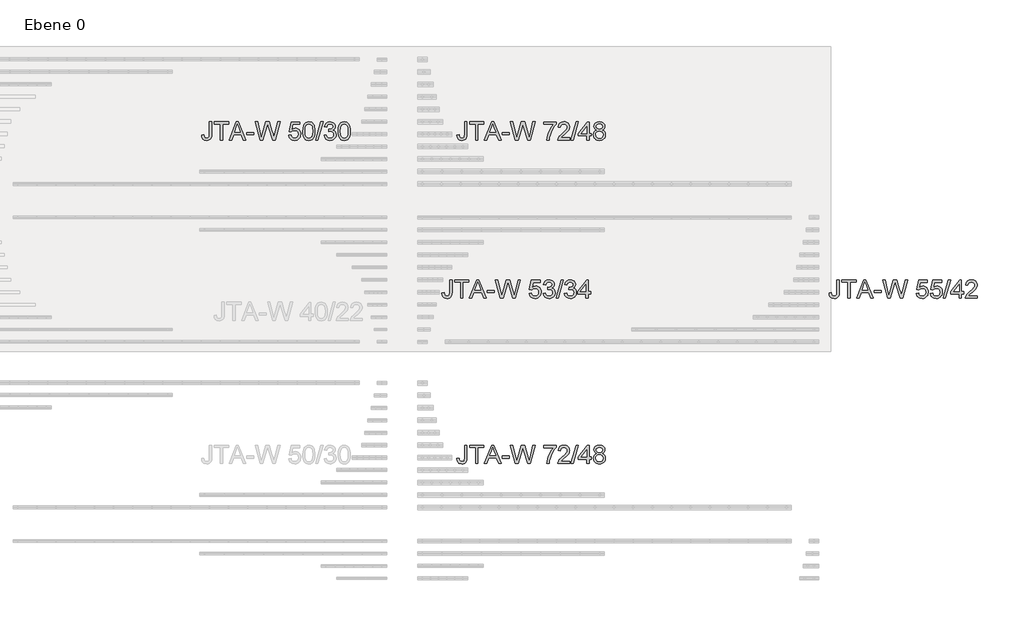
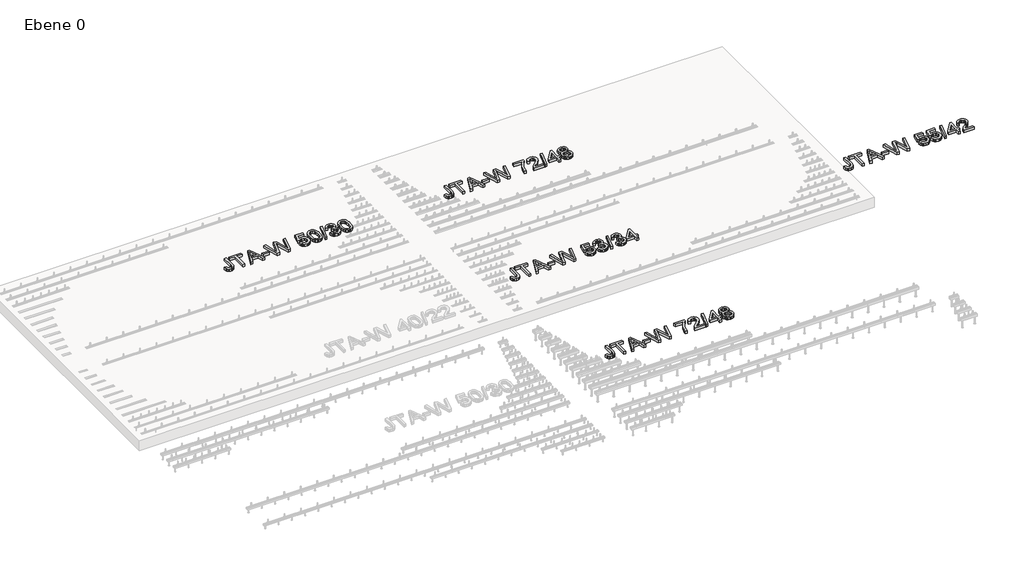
# One storey, part 5 of 5: 5 proxies.
"""IFC4 building model written with IfcOpenShell, lengths in millimetres."""

from ifc_helpers import new_model, si_unit, origin, origin_with_axes, place, context, project, spatial, polyline, outline, extrude, element, save

model = new_model("IFC4")

# Units and contexts
model_context = context("Model", 3, world=origin())
ifc_project = project(units=[si_unit("LENGTHUNIT", "METRE", prefix="MILLI")], contexts=[model_context])

# Site, building, storey
site = spatial("IfcSite", under=ifc_project)
building = spatial("IfcBuilding", under=site)
storey = spatial("IfcBuildingStorey", under=building, Name="Ebene 0", Elevation=0.0)

# Proxies
placement = place(None, origin())
element("IfcBuildingElementProxy", 1, Name="600mm Arial", ObjectType="600mm Arial", at=placement, inside=storey, context=model_context, shape_type="SweptSolid", body=[
    extrude(outline(polyline([(-73.7628927, 745.6259075), (-36.8398158, 750.3855229), (-32.9996716, 723.5405709), (-24.2196235, 706.7557152), (-10.806162, 697.9396094), (6.9342226, 695.0009075), (20.5730448, 696.6685757), (32.210665, 701.6715805), (41.1890303, 709.5501863), (46.850088, 719.8446575), (50.8524919, 756.4432152), (50.8524919, 958.0778305), (87.7755688, 958.0778305), (87.7755688, 757.0922536), (85.5490063, 724.2166527), (78.8693188, 699.7244652), (67.3488861, 681.8308354), (50.600088, 668.7509075), (29.569439, 660.7460998), (5.2034534, 658.0778305), (-28.9251524, 663.585643), (-42.595525, 670.4704087), (-54.0032774, 680.1090805), (-62.945585, 692.465601), (-69.2196235, 707.5039123), (-73.7628927, 745.6259075)])), origin_with_axes(), (0.0, 0.0, 1.0), 50.0),
    extrude(outline(polyline([(226.2371073, 662.6932152), (226.2371073, 921.1547536), (129.3140303, 921.1547536), (129.3140303, 958.0778305), (360.0832611, 958.0778305), (360.0832611, 921.1547536), (263.1601842, 921.1547536), (263.1601842, 662.6932152), (226.2371073, 662.6932152)])), origin_with_axes(), (0.0, 0.0, 1.0), 50.0),
    extrude(outline(polyline([(367.2226842, 662.6932152), (485.131338, 958.0778305), (516.5736457, 958.0778305), (634.4822996, 662.6932152), (595.4678765, 662.6932152), (561.6457611, 755.0009075), (439.9871073, 755.0009075), (406.2371073, 662.6932152), (367.2226842, 662.6932152)]), holes=[polyline([(453.5447996, 791.9239844), (548.1601842, 791.9239844), (521.5496073, 864.5441767), (500.8524919, 921.1547536), (482.4630688, 870.8903305), (453.5447996, 791.9239844)])]), origin_with_axes(), (0.0, 0.0, 1.0), 50.0),
    extrude(outline(polyline([(650.8524919, 750.3855229), (650.8524919, 787.3085998), (766.2371073, 787.3085998), (766.2371073, 750.3855229), (650.8524919, 750.3855229)])), origin_with_axes(), (0.0, 0.0, 1.0), 50.0),
    extrude(outline(polyline([(865.2515303, 662.6932152), (784.6986457, 958.0778305), (822.7755688, 958.0778305), (869.506338, 763.9432152), (883.929415, 704.0153305), (899.3621073, 757.0201382), (957.9197996, 958.0778305), (1012.7996073, 958.0778305), (1055.3476842, 812.3326382), (1073.5748476, 758.2460998), (1087.006338, 704.0153305), (1100.9967226, 762.2124459), (1148.1601842, 958.0778305), (1186.2371073, 958.0778305), (1105.6121073, 662.6932152), (1066.1649919, 662.6932152), (995.3476842, 890.5778305), (985.4678765, 922.3807152), (974.3621073, 884.0874459), (909.818838, 662.6932152), (865.2515303, 662.6932152)])), origin_with_axes(), (0.0, 0.0, 1.0), 50.0),
    extrude(outline(polyline([(1324.6986457, 916.539369), (1324.6986457, 953.4624459), (1518.5447996, 953.4624459), (1518.5447996, 923.6066767), (1490.9155928, 888.6397296), (1463.5568188, 844.1715805), (1439.4252082, 794.25872), (1421.4774919, 742.9576382), (1412.679415, 704.5742248), (1407.7755688, 662.6932152), (1370.8524919, 662.6932152), (1374.8458813, 700.7521094), (1385.5279726, 745.9864844), (1402.6103044, 793.9342007), (1425.804415, 840.133119), (1452.8837419, 881.8969411), (1481.6217226, 916.539369), (1324.6986457, 916.539369)])), origin_with_axes(), (0.0, 0.0, 1.0), 50.0),
    extrude(outline(polyline([(1740.0832611, 699.6162921), (1740.0832611, 662.6932152), (1546.2371073, 662.6932152), (1550.2034534, 688.1499459), (1559.3080207, 708.0447777), (1572.631338, 727.3446575), (1591.9041746, 747.5459796), (1618.8572996, 770.1451382), (1658.7010496, 805.5357632), (1682.6072996, 831.6595613), (1694.5604246, 852.8614844), (1698.5447996, 873.4864844), (1694.7857851, 891.9750661), (1683.5087419, 907.3446575), (1666.1740063, 917.7022296), (1644.241915, 921.1547536), (1621.210064, 917.7833594), (1603.3164342, 907.6691767), (1591.7689582, 891.6054748), (1587.7755688, 870.3855229), (1550.8524919, 875.0009075), (1559.803814, 910.7160517), (1568.1804666, 924.9633474), (1579.1577803, 936.8037921), (1592.4833513, 946.1111839), (1607.9047755, 952.7593209), (1645.0351842, 958.0778305), (1664.8240964, 956.5994652), (1682.4360255, 952.164369), (1697.8709714, 944.7725421), (1711.1289342, 934.4239844), (1721.7772214, 921.8849219), (1729.3831409, 907.9215805), (1733.9466926, 892.5339604), (1735.4678765, 875.7220613), (1733.8272515, 858.0628065), (1728.9053765, 840.7100421), (1720.1704005, 823.0598017), (1707.0904726, 804.508119), (1686.2401121, 782.3596815), (1654.193838, 753.9191767), (1611.7178765, 718.4023498), (1595.0592226, 699.6162921), (1740.0832611, 699.6162921)])), origin_with_axes(), (0.0, 0.0, 1.0), 50.0),
    extrude(outline(polyline([(1758.5447996, 662.6932152), (1841.6217226, 958.0778305), (1874.9390303, 958.0778305), (1791.8621073, 662.6932152), (1758.5447996, 662.6932152)])), origin_with_axes(), (0.0, 0.0, 1.0), 50.0),
    extrude(outline(polyline([(2012.3909534, 662.6932152), (2012.3909534, 731.9239844), (1878.5447996, 731.9239844), (1878.5447996, 768.8470613), (2021.6217226, 953.4624459), (2049.3140303, 953.4624459), (2049.3140303, 768.8470613), (2086.2371073, 768.8470613), (2086.2371073, 731.9239844), (2049.3140303, 731.9239844), (2049.3140303, 662.6932152), (2012.3909534, 662.6932152)]), holes=[polyline([(2012.3909534, 768.8470613), (2012.3909534, 882.9335998), (1923.9774919, 768.8470613), (2012.3909534, 768.8470613)])]), origin_with_axes(), (0.0, 0.0, 1.0), 50.0),
    extrude(outline(polyline([(2172.3428765, 825.3855229), (2152.5742467, 835.1210998), (2138.7010496, 848.3182152), (2130.506939, 864.7064363), (2127.7755688, 884.0153305), (2133.725088, 912.8795132), (2151.5736457, 936.7316767), (2164.4597635, 946.070619), (2179.32004, 952.7412921), (2214.9630688, 958.0778305), (2250.8224438, 952.6150902), (2265.8449799, 945.7866647), (2278.929415, 936.226869), (2297.1024919, 911.9960998), (2301.6457611, 898.0958594), (2303.1601842, 883.0057152), (2300.4648717, 864.3188161), (2292.3789342, 848.2100421), (2278.8122275, 835.0940565), (2259.6746073, 825.3855229), (2282.3999678, 813.6757873), (2298.9414342, 796.4311959), (2309.0285736, 774.4810757), (2312.3909534, 748.6547536), (2310.7232851, 730.2382873), (2305.7202803, 713.3542729), (2297.381939, 698.0027104), (2285.7082611, 684.1835998), (2271.3122275, 672.7623257), (2254.8068188, 664.6042729), (2236.1920351, 659.7094411), (2215.4678765, 658.0778305), (2194.7437178, 659.7162019), (2176.1289342, 664.6313161), (2159.6235255, 672.8231731), (2145.2274919, 684.2917729), (2133.553814, 698.2077885), (2125.2154726, 713.741893), (2120.2124678, 730.8940866), (2118.5447996, 749.664369), (2122.0423957, 776.4912921), (2132.5351842, 798.5585998), (2149.4822996, 815.1090805), (2172.3428765, 825.3855229)]), holes=[polyline([(2155.4678765, 750.9624459), (2161.6337419, 723.1619652), (2170.1704005, 711.2358834), (2183.4486457, 702.3566767), (2199.350088, 696.8398498), (2215.756338, 695.0009075), (2240.8885496, 698.868095), (2259.7467226, 710.4696575), (2271.537588, 728.038768), (2275.4678765, 749.8085998), (2271.4113861, 771.9480229), (2259.241915, 789.9047536), (2239.9510496, 801.8037921), (2214.5303765, 805.7701382), (2189.7497275, 801.8578786), (2171.0808573, 790.1210998), (2159.3711217, 772.5069171), (2155.4678765, 750.9624459)]), polyline([(2164.6986457, 882.9335998), (2167.9708813, 866.8158113), (2177.787588, 853.9432152), (2193.8603044, 845.5057152), (2215.9005688, 842.6932152), (2237.4270111, 845.4876863), (2253.256338, 853.8710998), (2262.991915, 866.3110036), (2266.2371073, 881.2749459), (2262.8837419, 896.8067969), (2252.8236457, 909.6523498), (2236.7779726, 918.2791527), (2215.4678765, 921.1547536), (2194.022564, 918.3422536), (2178.0039342, 909.9047536), (2168.0249678, 897.5369652), (2164.6986457, 882.9335998)])]), origin_with_axes(), (0.0, 0.0, 1.0), 50.0),
])
element("IfcBuildingElementProxy", 2, Name="600mm Arial", ObjectType="600mm Arial", at=placement, inside=storey, context=model_context, shape_type="SweptSolid", body=[
    extrude(outline(polyline([(-4173.7628927, 5945.6259075), (-4136.8398158, 5950.3855229), (-4132.9996716, 5923.5405709), (-4124.2196235, 5906.7557152), (-4110.806162, 5897.9396094), (-4093.0657774, 5895.0009075), (-4079.4269552, 5896.6685757), (-4067.789335, 5901.6715805), (-4058.8109697, 5909.5501863), (-4053.149912, 5919.8446575), (-4049.1475081, 5956.4432152), (-4049.1475081, 6158.0778305), (-4012.2244312, 6158.0778305), (-4012.2244312, 5957.0922536), (-4014.4509937, 5924.2166527), (-4021.1306812, 5899.7244652), (-4032.6511139, 5881.8308354), (-4049.399912, 5868.7509075), (-4070.430561, 5860.7460998), (-4094.7965466, 5858.0778305), (-4128.9251524, 5863.585643), (-4142.595525, 5870.4704087), (-4154.0032774, 5880.1090805), (-4162.945585, 5892.465601), (-4169.2196235, 5907.5039123), (-4173.7628927, 5945.6259075)])), origin_with_axes(), (0.0, 0.0, 1.0), 50.0),
    extrude(outline(polyline([(-3873.7628927, 5862.6932152), (-3873.7628927, 6121.1547536), (-3970.6859697, 6121.1547536), (-3970.6859697, 6158.0778305), (-3739.9167389, 6158.0778305), (-3739.9167389, 6121.1547536), (-3836.8398158, 6121.1547536), (-3836.8398158, 5862.6932152), (-3873.7628927, 5862.6932152)])), origin_with_axes(), (0.0, 0.0, 1.0), 50.0),
    extrude(outline(polyline([(-3732.7773158, 5862.6932152), (-3614.868662, 6158.0778305), (-3583.4263543, 6158.0778305), (-3465.5177004, 5862.6932152), (-3504.5321235, 5862.6932152), (-3538.3542389, 5955.0009075), (-3660.0128927, 5955.0009075), (-3693.7628927, 5862.6932152), (-3732.7773158, 5862.6932152)]), holes=[polyline([(-3646.4552004, 5991.9239844), (-3551.8398158, 5991.9239844), (-3578.4503927, 6064.5441767), (-3599.1475081, 6121.1547536), (-3617.5369312, 6070.8903305), (-3646.4552004, 5991.9239844)])]), origin_with_axes(), (0.0, 0.0, 1.0), 50.0),
    extrude(outline(polyline([(-3449.1475081, 5950.3855229), (-3449.1475081, 5987.3085998), (-3333.7628927, 5987.3085998), (-3333.7628927, 5950.3855229), (-3449.1475081, 5950.3855229)])), origin_with_axes(), (0.0, 0.0, 1.0), 50.0),
    extrude(outline(polyline([(-3234.7484697, 5862.6932152), (-3315.3013543, 6158.0778305), (-3277.2244312, 6158.0778305), (-3230.493662, 5963.9432152), (-3216.070585, 5904.0153305), (-3200.6378927, 5957.0201382), (-3142.0802004, 6158.0778305), (-3087.2003927, 6158.0778305), (-3044.6523158, 6012.3326382), (-3026.4251524, 5958.2460998), (-3012.993662, 5904.0153305), (-2999.0032774, 5962.2124459), (-2951.8398158, 6158.0778305), (-2913.7628927, 6158.0778305), (-2994.3878927, 5862.6932152), (-3033.8350081, 5862.6932152), (-3104.6523158, 6090.5778305), (-3114.5321235, 6122.3807152), (-3125.6378927, 6084.0874459), (-3190.181162, 5862.6932152), (-3234.7484697, 5862.6932152)])), origin_with_axes(), (0.0, 0.0, 1.0), 50.0),
    extrude(outline(polyline([(-2775.3013543, 5941.1547536), (-2738.3782774, 5945.7701382), (-2731.5994312, 5923.6036719), (-2719.7725081, 5907.7292729), (-2702.9515947, 5898.1829988), (-2681.1907774, 5895.0009075), (-2654.7244312, 5899.4269892), (-2634.8927004, 5912.7052344), (-2622.5068831, 5933.3031911), (-2618.3782774, 5959.6884075), (-2622.2454649, 5984.5321575), (-2633.8470274, 6003.5345613), (-2653.2731091, 6015.5958594), (-2680.6138543, 6019.6162921), (-2698.5255129, 6018.0117248), (-2713.0297197, 6013.1980229), (-2733.7628927, 5996.539369), (-2770.6859697, 6001.1547536), (-2738.3782774, 6153.4624459), (-2595.3013543, 6153.4624459), (-2595.3013543, 6116.539369), (-2708.5225081, 6116.539369), (-2724.3157774, 6035.1932152), (-2697.9395754, 6051.2028305), (-2670.3013543, 6056.539369), (-2652.3198338, 6054.8852224), (-2635.8031572, 6049.9227825), (-2620.7513242, 6041.6520493), (-2607.164335, 6030.0730229), (-2595.9165887, 6015.8933354), (-2587.8824841, 5999.820619), (-2583.0620213, 5981.8548738), (-2581.4552004, 5961.9960998), (-2587.24246, 5925.0730229), (-2594.4765346, 5908.6126863), (-2604.6042389, 5893.4864844), (-2619.946787, 5877.9951983), (-2637.8494312, 5866.929994), (-2658.3121716, 5860.2908714), (-2681.3350081, 5858.0778305), (-2717.6000322, 5863.7659315), (-2732.9673699, 5870.8760577), (-2746.4912581, 5880.8302344), (-2757.7435117, 5893.1326683), (-2766.2959456, 5907.2875661), (-2775.3013543, 5941.1547536)])), origin_with_axes(), (0.0, 0.0, 1.0), 50.0),
    extrude(outline(polyline([(-2549.1475081, 6008.0057152), (-2546.4341668, 6055.2863642), (-2538.2941427, 6092.9936959), (-2524.8085658, 6121.7046334), (-2506.0585658, 6141.9960998), (-2481.9089264, 6154.0573979), (-2452.2244312, 6158.0778305), (-2429.4720274, 6155.6980229), (-2409.0994312, 6148.5585998), (-2392.0621716, 6136.9390084), (-2379.3157774, 6121.1186959), (-2369.6883735, 6101.2328786), (-2362.008085, 6077.4167729), (-2356.978037, 6047.1733834), (-2355.3013543, 6008.0057152), (-2357.9876524, 5960.9954988), (-2366.0465466, 5923.3783113), (-2379.4509937, 5894.6403305), (-2398.1739504, 5874.2677344), (-2422.3776764, 5862.1253065), (-2452.2244312, 5858.0778305), (-2472.5609697, 5859.835643), (-2490.5898158, 5865.1090805), (-2506.3109697, 5873.898143), (-2519.7244312, 5886.2028305), (-2532.5970274, 5908.4459195), (-2541.7917389, 5936.1607632), (-2547.3085658, 5969.3473618), (-2549.1475081, 6008.0057152)]), holes=[polyline([(-2512.2244312, 6008.0778305), (-2507.8975081, 5949.9979027), (-2502.4888543, 5930.1323678), (-2494.9167389, 5916.383119), (-2475.5898158, 5900.3464604), (-2452.2244312, 5895.0009075), (-2428.8590466, 5900.3644892), (-2409.5321235, 5916.4552344), (-2401.9600081, 5930.2270192), (-2396.5513543, 5950.0880469), (-2392.2244312, 6008.0778305), (-2396.4071235, 6064.8506671), (-2401.6354889, 6084.6508474), (-2408.9552004, 6098.726869), (-2428.2460658, 6115.5477825), (-2452.6571235, 6121.1547536), (-2475.7701043, 6116.2148498), (-2494.3398158, 6101.3951382), (-2502.164335, 6086.070619), (-2507.7532774, 6065.4095613), (-2512.2244312, 6008.0778305)])]), origin_with_axes(), (0.0, 0.0, 1.0), 50.0),
    extrude(outline(polyline([(-2341.4552004, 5862.6932152), (-2258.3782774, 6158.0778305), (-2225.0609697, 6158.0778305), (-2308.1378927, 5862.6932152), (-2341.4552004, 5862.6932152)])), origin_with_axes(), (0.0, 0.0, 1.0), 50.0),
    extrude(outline(polyline([(-2207.6090466, 5941.1547536), (-2170.6859697, 5945.7701382), (-2162.4197437, 5922.5670132), (-2150.3133735, 5906.8999459), (-2133.7719072, 5897.9756671), (-2112.2003927, 5895.0009075), (-2086.8878927, 5899.0934555), (-2067.3446235, 5911.3710998), (-2054.8506331, 5929.6884075), (-2050.6859697, 5951.8999459), (-2054.8145754, 5972.9846815), (-2067.2003927, 5990.0850421), (-2085.9503927, 6001.4161719), (-2109.1715466, 6005.1932152), (-2135.0609697, 6001.1547536), (-2130.9503927, 6038.0778305), (-2125.0369312, 6037.6451382), (-2102.915537, 6040.2953786), (-2083.1378927, 6048.2460998), (-2069.1835658, 6061.695619), (-2064.5321235, 6080.8422536), (-2067.9035177, 6096.788768), (-2078.0177004, 6109.7244652), (-2093.4503927, 6118.2971815), (-2112.7773158, 6121.1547536), (-2132.1402966, 6118.2701382), (-2147.9696235, 6109.6162921), (-2159.5261139, 6095.1932152), (-2166.070585, 6075.0009075), (-2202.993662, 6079.6162921), (-2192.1222677, 6112.7713402), (-2172.7773158, 6137.5249459), (-2146.3109697, 6152.9396094), (-2114.0753927, 6158.0778305), (-2090.8632533, 6155.5447777), (-2069.5441427, 6147.945619), (-2051.5693831, 6135.9564363), (-2038.3902966, 6120.2533113), (-2030.3043591, 6102.1613642), (-2027.6090466, 6083.0057152), (-2030.1691427, 6065.1571575), (-2037.8494312, 6048.9672536), (-2050.5417389, 6035.1751863), (-2068.1378927, 6024.5201382), (-2045.024912, 6015.1811959), (-2027.8975081, 5999.2797536), (-2017.2965466, 5977.6811959), (-2013.7628927, 5951.2509075), (-2015.5297197, 5932.5189363), (-2020.8302004, 5915.2653305), (-2029.664335, 5899.4900902), (-2042.0321235, 5885.1932152), (-2057.0997317, 5873.3302344), (-2074.0333254, 5864.8566767), (-2092.8329048, 5859.7725421), (-2113.4984697, 5858.0778305), (-2149.195585, 5863.8650902), (-2164.556162, 5871.0991647), (-2178.258085, 5881.226869), (-2189.7469673, 5893.6532512), (-2198.4684216, 5907.7833594), (-2207.6090466, 5941.1547536)])), origin_with_axes(), (0.0, 0.0, 1.0), 50.0),
    extrude(outline(polyline([(-1981.4552004, 6008.0057152), (-1978.7418591, 6055.2863642), (-1970.601835, 6092.9936959), (-1957.1162581, 6121.7046334), (-1938.3662581, 6141.9960998), (-1914.2166187, 6154.0573979), (-1884.5321235, 6158.0778305), (-1861.7797197, 6155.6980229), (-1841.4071235, 6148.5585998), (-1824.3698639, 6136.9390084), (-1811.6234697, 6121.1186959), (-1801.9960658, 6101.2328786), (-1794.3157774, 6077.4167729), (-1789.2857293, 6047.1733834), (-1787.6090466, 6008.0057152), (-1790.2953447, 5960.9954988), (-1798.3542389, 5923.3783113), (-1811.758686, 5894.6403305), (-1830.4816427, 5874.2677344), (-1854.6853687, 5862.1253065), (-1884.5321235, 5858.0778305), (-1904.868662, 5859.835643), (-1922.8975081, 5865.1090805), (-1938.618662, 5873.898143), (-1952.0321235, 5886.2028305), (-1964.9047197, 5908.4459195), (-1974.0994312, 5936.1607632), (-1979.6162581, 5969.3473618), (-1981.4552004, 6008.0057152)]), holes=[polyline([(-1944.5321235, 6008.0778305), (-1940.2052004, 5949.9979027), (-1934.7965466, 5930.1323678), (-1927.2244312, 5916.383119), (-1907.8975081, 5900.3464604), (-1884.5321235, 5895.0009075), (-1861.1667389, 5900.3644892), (-1841.8398158, 5916.4552344), (-1834.2677004, 5930.2270192), (-1828.8590466, 5950.0880469), (-1824.5321235, 6008.0778305), (-1828.7148158, 6064.8506671), (-1833.9431812, 6084.6508474), (-1841.2628927, 6098.726869), (-1860.5537581, 6115.5477825), (-1884.9648158, 6121.1547536), (-1908.0777966, 6116.2148498), (-1926.6475081, 6101.3951382), (-1934.4720274, 6086.070619), (-1940.0609697, 6065.4095613), (-1944.5321235, 6008.0778305)])]), origin_with_axes(), (0.0, 0.0, 1.0), 50.0),
])
element("IfcBuildingElementProxy", 3, Name="600mm Arial", ObjectType="600mm Arial", at=placement, inside=storey, context=model_context, shape_type="SweptSolid", body=[
    extrude(outline(polyline([(-313.7628927, 3405.6259075), (-276.8398158, 3410.3855229), (-272.9996716, 3383.5405709), (-264.2196235, 3366.7557152), (-250.806162, 3357.9396094), (-233.0657774, 3355.0009075), (-219.4269552, 3356.6685757), (-207.789335, 3361.6715805), (-198.8109697, 3369.5501863), (-193.149912, 3379.8446575), (-189.1475081, 3416.4432152), (-189.1475081, 3618.0778305), (-152.2244312, 3618.0778305), (-152.2244312, 3417.0922536), (-154.4509937, 3384.2166527), (-161.1306812, 3359.7244652), (-172.6511139, 3341.8308354), (-189.399912, 3328.7509075), (-210.430561, 3320.7460998), (-234.7965466, 3318.0778305), (-268.9251524, 3323.585643), (-282.595525, 3330.4704087), (-294.0032774, 3340.1090805), (-302.945585, 3352.465601), (-309.2196235, 3367.5039123), (-313.7628927, 3405.6259075)])), origin_with_axes(), (0.0, 0.0, 1.0), 50.0),
    extrude(outline(polyline([(-13.7628927, 3322.6932152), (-13.7628927, 3581.1547536), (-110.6859697, 3581.1547536), (-110.6859697, 3618.0778305), (120.0832611, 3618.0778305), (120.0832611, 3581.1547536), (23.1601842, 3581.1547536), (23.1601842, 3322.6932152), (-13.7628927, 3322.6932152)])), origin_with_axes(), (0.0, 0.0, 1.0), 50.0),
    extrude(outline(polyline([(127.2226842, 3322.6932152), (245.131338, 3618.0778305), (276.5736457, 3618.0778305), (394.4822996, 3322.6932152), (355.4678765, 3322.6932152), (321.6457611, 3415.0009075), (199.9871073, 3415.0009075), (166.2371073, 3322.6932152), (127.2226842, 3322.6932152)]), holes=[polyline([(213.5447996, 3451.9239844), (308.1601842, 3451.9239844), (281.5496073, 3524.5441767), (260.8524919, 3581.1547536), (242.4630688, 3530.8903305), (213.5447996, 3451.9239844)])]), origin_with_axes(), (0.0, 0.0, 1.0), 50.0),
    extrude(outline(polyline([(410.8524919, 3410.3855229), (410.8524919, 3447.3085998), (526.2371073, 3447.3085998), (526.2371073, 3410.3855229), (410.8524919, 3410.3855229)])), origin_with_axes(), (0.0, 0.0, 1.0), 50.0),
    extrude(outline(polyline([(625.2515303, 3322.6932152), (544.6986457, 3618.0778305), (582.7755688, 3618.0778305), (629.506338, 3423.9432152), (643.929415, 3364.0153305), (659.3621073, 3417.0201382), (717.9197996, 3618.0778305), (772.7996073, 3618.0778305), (815.3476842, 3472.3326382), (833.5748476, 3418.2460998), (847.006338, 3364.0153305), (860.9967226, 3422.2124459), (908.1601842, 3618.0778305), (946.2371073, 3618.0778305), (865.6121073, 3322.6932152), (826.1649919, 3322.6932152), (755.3476842, 3550.5778305), (745.4678765, 3582.3807152), (734.3621073, 3544.0874459), (669.818838, 3322.6932152), (625.2515303, 3322.6932152)])), origin_with_axes(), (0.0, 0.0, 1.0), 50.0),
    extrude(outline(polyline([(1084.6986457, 3401.1547536), (1121.6217226, 3405.7701382), (1128.4005688, 3383.6036719), (1140.2274919, 3367.7292729), (1157.0484053, 3358.1829988), (1178.8092226, 3355.0009075), (1205.2755688, 3359.4269892), (1225.1072996, 3372.7052344), (1237.4931169, 3393.3031911), (1241.6217226, 3419.6884075), (1237.7545351, 3444.5321575), (1226.1529726, 3463.5345613), (1206.7268909, 3475.5958594), (1179.3861457, 3479.6162921), (1161.4744871, 3478.0117248), (1146.9702803, 3473.1980229), (1126.2371073, 3456.539369), (1089.3140303, 3461.1547536), (1121.6217226, 3613.4624459), (1264.6986457, 3613.4624459), (1264.6986457, 3576.539369), (1151.4774919, 3576.539369), (1135.6842226, 3495.1932152), (1162.0604246, 3511.2028305), (1189.6986457, 3516.539369), (1207.6801662, 3514.8852224), (1224.1968428, 3509.9227825), (1239.2486758, 3501.6520493), (1252.835665, 3490.0730229), (1264.0834113, 3475.8933354), (1272.1175159, 3459.820619), (1276.9379787, 3441.8548738), (1278.5447996, 3421.9960998), (1272.75754, 3385.0730229), (1265.5234654, 3368.6126863), (1255.3957611, 3353.4864844), (1240.053213, 3337.9951983), (1222.1505688, 3326.929994), (1201.6878284, 3320.2908714), (1178.6649919, 3318.0778305), (1142.3999678, 3323.7659315), (1127.0326301, 3330.8760577), (1113.5087419, 3340.8302344), (1102.2564883, 3353.1326683), (1093.7040544, 3367.2875661), (1084.6986457, 3401.1547536)])), origin_with_axes(), (0.0, 0.0, 1.0), 50.0),
    extrude(outline(polyline([(1310.8524919, 3401.1547536), (1347.7755688, 3405.7701382), (1356.0417948, 3382.5670132), (1368.148165, 3366.8999459), (1384.6896313, 3357.9756671), (1406.2611457, 3355.0009075), (1431.5736457, 3359.0934555), (1451.116915, 3371.3710998), (1463.6109053, 3389.6884075), (1467.7755688, 3411.8999459), (1463.646963, 3432.9846815), (1451.2611457, 3450.0850421), (1432.5111457, 3461.4161719), (1409.2899919, 3465.1932152), (1383.4005688, 3461.1547536), (1387.5111457, 3498.0778305), (1393.4246073, 3497.6451382), (1415.5460015, 3500.2953786), (1435.3236457, 3508.2460998), (1449.2779726, 3521.695619), (1453.929415, 3540.8422536), (1450.5580207, 3556.788768), (1440.443838, 3569.7244652), (1425.0111457, 3578.2971815), (1405.6842226, 3581.1547536), (1386.3212419, 3578.2701382), (1370.491915, 3569.6162921), (1358.9354246, 3555.1932152), (1352.3909534, 3535.0009075), (1315.4678765, 3539.6162921), (1326.3392707, 3572.7713402), (1345.6842226, 3597.5249459), (1372.1505688, 3612.9396094), (1404.3861457, 3618.0778305), (1427.5982851, 3615.5447777), (1448.9173957, 3607.945619), (1466.8921553, 3595.9564363), (1480.0712419, 3580.2533113), (1488.1571794, 3562.1613642), (1490.8524919, 3543.0057152), (1488.2923957, 3525.1571575), (1480.6121073, 3508.9672536), (1467.9197996, 3495.1751863), (1450.3236457, 3484.5201382), (1473.4366265, 3475.1811959), (1490.5640303, 3459.2797536), (1501.1649919, 3437.6811959), (1504.6986457, 3411.2509075), (1502.9318188, 3392.5189363), (1497.631338, 3375.2653305), (1488.7972034, 3359.4900902), (1476.429415, 3345.1932152), (1461.3618068, 3333.3302344), (1444.428213, 3324.8566767), (1425.6286337, 3319.7725421), (1404.9630688, 3318.0778305), (1369.2659534, 3323.8650902), (1353.9053765, 3331.0991647), (1340.2034534, 3341.226869), (1328.7145712, 3353.6532512), (1319.9931169, 3367.7833594), (1310.8524919, 3401.1547536)])), origin_with_axes(), (0.0, 0.0, 1.0), 50.0),
    extrude(outline(polyline([(1518.5447996, 3322.6932152), (1601.6217226, 3618.0778305), (1634.9390303, 3618.0778305), (1551.8621073, 3322.6932152), (1518.5447996, 3322.6932152)])), origin_with_axes(), (0.0, 0.0, 1.0), 50.0),
    extrude(outline(polyline([(1652.3909534, 3401.1547536), (1689.3140303, 3405.7701382), (1697.5802563, 3382.5670132), (1709.6866265, 3366.8999459), (1726.2280928, 3357.9756671), (1747.7996073, 3355.0009075), (1773.1121073, 3359.0934555), (1792.6553765, 3371.3710998), (1805.1493669, 3389.6884075), (1809.3140303, 3411.8999459), (1805.1854246, 3432.9846815), (1792.7996073, 3450.0850421), (1774.0496073, 3461.4161719), (1750.8284534, 3465.1932152), (1724.9390303, 3461.1547536), (1729.0496073, 3498.0778305), (1734.9630688, 3497.6451382), (1757.084463, 3500.2953786), (1776.8621073, 3508.2460998), (1790.8164342, 3521.695619), (1795.4678765, 3540.8422536), (1792.0964823, 3556.788768), (1781.9822996, 3569.7244652), (1766.5496073, 3578.2971815), (1747.2226842, 3581.1547536), (1727.8597034, 3578.2701382), (1712.0303765, 3569.6162921), (1700.4738861, 3555.1932152), (1693.929415, 3535.0009075), (1657.006338, 3539.6162921), (1667.8777323, 3572.7713402), (1687.2226842, 3597.5249459), (1713.6890303, 3612.9396094), (1745.9246073, 3618.0778305), (1769.1367467, 3615.5447777), (1790.4558573, 3607.945619), (1808.4306169, 3595.9564363), (1821.6097034, 3580.2533113), (1829.6956409, 3562.1613642), (1832.3909534, 3543.0057152), (1829.8308573, 3525.1571575), (1822.1505688, 3508.9672536), (1809.4582611, 3495.1751863), (1791.8621073, 3484.5201382), (1814.975088, 3475.1811959), (1832.1024919, 3459.2797536), (1842.7034534, 3437.6811959), (1846.2371073, 3411.2509075), (1844.4702803, 3392.5189363), (1839.1697996, 3375.2653305), (1830.335665, 3359.4900902), (1817.9678765, 3345.1932152), (1802.9002683, 3333.3302344), (1785.9666746, 3324.8566767), (1767.1670952, 3319.7725421), (1746.5015303, 3318.0778305), (1710.804415, 3323.8650902), (1695.443838, 3331.0991647), (1681.741915, 3341.226869), (1670.2530327, 3353.6532512), (1661.5315784, 3367.7833594), (1652.3909534, 3401.1547536)])), origin_with_axes(), (0.0, 0.0, 1.0), 50.0),
    extrude(outline(polyline([(1998.5447996, 3322.6932152), (1998.5447996, 3391.9239844), (1864.6986457, 3391.9239844), (1864.6986457, 3428.8470613), (2007.7755688, 3613.4624459), (2035.4678765, 3613.4624459), (2035.4678765, 3428.8470613), (2072.3909534, 3428.8470613), (2072.3909534, 3391.9239844), (2035.4678765, 3391.9239844), (2035.4678765, 3322.6932152), (1998.5447996, 3322.6932152)]), holes=[polyline([(1998.5447996, 3428.8470613), (1998.5447996, 3542.9335998), (1910.131338, 3428.8470613), (1998.5447996, 3428.8470613)])]), origin_with_axes(), (0.0, 0.0, 1.0), 50.0),
])
element("IfcBuildingElementProxy", 4, Name="600mm Arial", ObjectType="600mm Arial", at=placement, inside=storey, context=model_context, shape_type="SweptSolid", body=[
    extrude(outline(polyline([(-73.7628927, 5945.6259075), (-36.8398158, 5950.3855229), (-32.9996716, 5923.5405709), (-24.2196235, 5906.7557152), (-10.806162, 5897.9396094), (6.9342226, 5895.0009075), (20.5730448, 5896.6685757), (32.210665, 5901.6715805), (41.1890303, 5909.5501863), (46.850088, 5919.8446575), (50.8524919, 5956.4432152), (50.8524919, 6158.0778305), (87.7755688, 6158.0778305), (87.7755688, 5957.0922536), (85.5490063, 5924.2166527), (78.8693188, 5899.7244652), (67.3488861, 5881.8308354), (50.600088, 5868.7509075), (29.569439, 5860.7460998), (5.2034534, 5858.0778305), (-28.9251524, 5863.585643), (-42.595525, 5870.4704087), (-54.0032774, 5880.1090805), (-62.945585, 5892.465601), (-69.2196235, 5907.5039123), (-73.7628927, 5945.6259075)])), origin_with_axes(), (0.0, 0.0, 1.0), 50.0),
    extrude(outline(polyline([(226.2371073, 5862.6932152), (226.2371073, 6121.1547536), (129.3140303, 6121.1547536), (129.3140303, 6158.0778305), (360.0832611, 6158.0778305), (360.0832611, 6121.1547536), (263.1601842, 6121.1547536), (263.1601842, 5862.6932152), (226.2371073, 5862.6932152)])), origin_with_axes(), (0.0, 0.0, 1.0), 50.0),
    extrude(outline(polyline([(367.2226842, 5862.6932152), (485.131338, 6158.0778305), (516.5736457, 6158.0778305), (634.4822996, 5862.6932152), (595.4678765, 5862.6932152), (561.6457611, 5955.0009075), (439.9871073, 5955.0009075), (406.2371073, 5862.6932152), (367.2226842, 5862.6932152)]), holes=[polyline([(453.5447996, 5991.9239844), (548.1601842, 5991.9239844), (521.5496073, 6064.5441767), (500.8524919, 6121.1547536), (482.4630688, 6070.8903305), (453.5447996, 5991.9239844)])]), origin_with_axes(), (0.0, 0.0, 1.0), 50.0),
    extrude(outline(polyline([(650.8524919, 5950.3855229), (650.8524919, 5987.3085998), (766.2371073, 5987.3085998), (766.2371073, 5950.3855229), (650.8524919, 5950.3855229)])), origin_with_axes(), (0.0, 0.0, 1.0), 50.0),
    extrude(outline(polyline([(865.2515303, 5862.6932152), (784.6986457, 6158.0778305), (822.7755688, 6158.0778305), (869.506338, 5963.9432152), (883.929415, 5904.0153305), (899.3621073, 5957.0201382), (957.9197996, 6158.0778305), (1012.7996073, 6158.0778305), (1055.3476842, 6012.3326382), (1073.5748476, 5958.2460998), (1087.006338, 5904.0153305), (1100.9967226, 5962.2124459), (1148.1601842, 6158.0778305), (1186.2371073, 6158.0778305), (1105.6121073, 5862.6932152), (1066.1649919, 5862.6932152), (995.3476842, 6090.5778305), (985.4678765, 6122.3807152), (974.3621073, 6084.0874459), (909.818838, 5862.6932152), (865.2515303, 5862.6932152)])), origin_with_axes(), (0.0, 0.0, 1.0), 50.0),
    extrude(outline(polyline([(1324.6986457, 6116.539369), (1324.6986457, 6153.4624459), (1518.5447996, 6153.4624459), (1518.5447996, 6123.6066767), (1490.9155928, 6088.6397296), (1463.5568188, 6044.1715805), (1439.4252082, 5994.25872), (1421.4774919, 5942.9576382), (1412.679415, 5904.5742248), (1407.7755688, 5862.6932152), (1370.8524919, 5862.6932152), (1374.8458813, 5900.7521094), (1385.5279726, 5945.9864844), (1402.6103044, 5993.9342007), (1425.804415, 6040.133119), (1452.8837419, 6081.8969411), (1481.6217226, 6116.539369), (1324.6986457, 6116.539369)])), origin_with_axes(), (0.0, 0.0, 1.0), 50.0),
    extrude(outline(polyline([(1740.0832611, 5899.6162921), (1740.0832611, 5862.6932152), (1546.2371073, 5862.6932152), (1550.2034534, 5888.1499459), (1559.3080207, 5908.0447777), (1572.631338, 5927.3446575), (1591.9041746, 5947.5459796), (1618.8572996, 5970.1451382), (1658.7010496, 6005.5357632), (1682.6072996, 6031.6595613), (1694.5604246, 6052.8614844), (1698.5447996, 6073.4864844), (1694.7857851, 6091.9750661), (1683.5087419, 6107.3446575), (1666.1740063, 6117.7022296), (1644.241915, 6121.1547536), (1621.210064, 6117.7833594), (1603.3164342, 6107.6691767), (1591.7689582, 6091.6054748), (1587.7755688, 6070.3855229), (1550.8524919, 6075.0009075), (1559.803814, 6110.7160517), (1568.1804666, 6124.9633474), (1579.1577803, 6136.8037921), (1592.4833513, 6146.1111839), (1607.9047755, 6152.7593209), (1645.0351842, 6158.0778305), (1664.8240964, 6156.5994652), (1682.4360255, 6152.164369), (1697.8709714, 6144.7725421), (1711.1289342, 6134.4239844), (1721.7772214, 6121.8849219), (1729.3831409, 6107.9215805), (1733.9466926, 6092.5339604), (1735.4678765, 6075.7220613), (1733.8272515, 6058.0628065), (1728.9053765, 6040.7100421), (1720.1704005, 6023.0598017), (1707.0904726, 6004.508119), (1686.2401121, 5982.3596815), (1654.193838, 5953.9191767), (1611.7178765, 5918.4023498), (1595.0592226, 5899.6162921), (1740.0832611, 5899.6162921)])), origin_with_axes(), (0.0, 0.0, 1.0), 50.0),
    extrude(outline(polyline([(1758.5447996, 5862.6932152), (1841.6217226, 6158.0778305), (1874.9390303, 6158.0778305), (1791.8621073, 5862.6932152), (1758.5447996, 5862.6932152)])), origin_with_axes(), (0.0, 0.0, 1.0), 50.0),
    extrude(outline(polyline([(2012.3909534, 5862.6932152), (2012.3909534, 5931.9239844), (1878.5447996, 5931.9239844), (1878.5447996, 5968.8470613), (2021.6217226, 6153.4624459), (2049.3140303, 6153.4624459), (2049.3140303, 5968.8470613), (2086.2371073, 5968.8470613), (2086.2371073, 5931.9239844), (2049.3140303, 5931.9239844), (2049.3140303, 5862.6932152), (2012.3909534, 5862.6932152)]), holes=[polyline([(2012.3909534, 5968.8470613), (2012.3909534, 6082.9335998), (1923.9774919, 5968.8470613), (2012.3909534, 5968.8470613)])]), origin_with_axes(), (0.0, 0.0, 1.0), 50.0),
    extrude(outline(polyline([(2172.3428765, 6025.3855229), (2152.5742467, 6035.1210998), (2138.7010496, 6048.3182152), (2130.506939, 6064.7064363), (2127.7755688, 6084.0153305), (2133.725088, 6112.8795132), (2151.5736457, 6136.7316767), (2164.4597635, 6146.070619), (2179.32004, 6152.7412921), (2214.9630688, 6158.0778305), (2250.8224438, 6152.6150902), (2265.8449799, 6145.7866647), (2278.929415, 6136.226869), (2297.1024919, 6111.9960998), (2301.6457611, 6098.0958594), (2303.1601842, 6083.0057152), (2300.4648717, 6064.3188161), (2292.3789342, 6048.2100421), (2278.8122275, 6035.0940565), (2259.6746073, 6025.3855229), (2282.3999678, 6013.6757873), (2298.9414342, 5996.4311959), (2309.0285736, 5974.4810757), (2312.3909534, 5948.6547536), (2310.7232851, 5930.2382873), (2305.7202803, 5913.3542729), (2297.381939, 5898.0027104), (2285.7082611, 5884.1835998), (2271.3122275, 5872.7623257), (2254.8068188, 5864.6042729), (2236.1920351, 5859.7094411), (2215.4678765, 5858.0778305), (2194.7437178, 5859.7162019), (2176.1289342, 5864.6313161), (2159.6235255, 5872.8231731), (2145.2274919, 5884.2917729), (2133.553814, 5898.2077885), (2125.2154726, 5913.741893), (2120.2124678, 5930.8940866), (2118.5447996, 5949.664369), (2122.0423957, 5976.4912921), (2132.5351842, 5998.5585998), (2149.4822996, 6015.1090805), (2172.3428765, 6025.3855229)]), holes=[polyline([(2155.4678765, 5950.9624459), (2161.6337419, 5923.1619652), (2170.1704005, 5911.2358834), (2183.4486457, 5902.3566767), (2199.350088, 5896.8398498), (2215.756338, 5895.0009075), (2240.8885496, 5898.868095), (2259.7467226, 5910.4696575), (2271.537588, 5928.038768), (2275.4678765, 5949.8085998), (2271.4113861, 5971.9480229), (2259.241915, 5989.9047536), (2239.9510496, 6001.8037921), (2214.5303765, 6005.7701382), (2189.7497275, 6001.8578786), (2171.0808573, 5990.1210998), (2159.3711217, 5972.5069171), (2155.4678765, 5950.9624459)]), polyline([(2164.6986457, 6082.9335998), (2167.9708813, 6066.8158113), (2177.787588, 6053.9432152), (2193.8603044, 6045.5057152), (2215.9005688, 6042.6932152), (2237.4270111, 6045.4876863), (2253.256338, 6053.8710998), (2262.991915, 6066.3110036), (2266.2371073, 6081.2749459), (2262.8837419, 6096.8067969), (2252.8236457, 6109.6523498), (2236.7779726, 6118.2791527), (2215.4678765, 6121.1547536), (2194.022564, 6118.3422536), (2178.0039342, 6109.9047536), (2168.0249678, 6097.5369652), (2164.6986457, 6082.9335998)])]), origin_with_axes(), (0.0, 0.0, 1.0), 50.0),
])
element("IfcBuildingElementProxy", 5, Name="600mm Arial", ObjectType="600mm Arial", at=placement, inside=storey, context=model_context, shape_type="SweptSolid", body=[
    extrude(outline(polyline([(5906.2371073, 3405.6259075), (5943.1601842, 3410.3855229), (5947.0003284, 3383.5405709), (5955.7803765, 3366.7557152), (5969.193838, 3357.9396094), (5986.9342226, 3355.0009075), (6000.5730448, 3356.6685757), (6012.210665, 3361.6715805), (6021.1890303, 3369.5501863), (6026.850088, 3379.8446575), (6030.8524919, 3416.4432152), (6030.8524919, 3618.0778305), (6067.7755688, 3618.0778305), (6067.7755688, 3417.0922536), (6065.5490063, 3384.2166527), (6058.8693188, 3359.7244652), (6047.3488861, 3341.8308354), (6030.600088, 3328.7509075), (6009.569439, 3320.7460998), (5985.2034534, 3318.0778305), (5951.0748476, 3323.585643), (5937.404475, 3330.4704087), (5925.9967226, 3340.1090805), (5917.054415, 3352.465601), (5910.7803765, 3367.5039123), (5906.2371073, 3405.6259075)])), origin_with_axes(), (0.0, 0.0, 1.0), 50.0),
    extrude(outline(polyline([(6206.2371073, 3322.6932152), (6206.2371073, 3581.1547536), (6109.3140303, 3581.1547536), (6109.3140303, 3618.0778305), (6340.0832611, 3618.0778305), (6340.0832611, 3581.1547536), (6243.1601842, 3581.1547536), (6243.1601842, 3322.6932152), (6206.2371073, 3322.6932152)])), origin_with_axes(), (0.0, 0.0, 1.0), 50.0),
    extrude(outline(polyline([(6347.2226842, 3322.6932152), (6465.131338, 3618.0778305), (6496.5736457, 3618.0778305), (6614.4822996, 3322.6932152), (6575.4678765, 3322.6932152), (6541.6457611, 3415.0009075), (6419.9871073, 3415.0009075), (6386.2371073, 3322.6932152), (6347.2226842, 3322.6932152)]), holes=[polyline([(6433.5447996, 3451.9239844), (6528.1601842, 3451.9239844), (6501.5496073, 3524.5441767), (6480.8524919, 3581.1547536), (6462.4630688, 3530.8903305), (6433.5447996, 3451.9239844)])]), origin_with_axes(), (0.0, 0.0, 1.0), 50.0),
    extrude(outline(polyline([(6630.8524919, 3410.3855229), (6630.8524919, 3447.3085998), (6746.2371073, 3447.3085998), (6746.2371073, 3410.3855229), (6630.8524919, 3410.3855229)])), origin_with_axes(), (0.0, 0.0, 1.0), 50.0),
    extrude(outline(polyline([(6845.2515303, 3322.6932152), (6764.6986457, 3618.0778305), (6802.7755688, 3618.0778305), (6849.506338, 3423.9432152), (6863.929415, 3364.0153305), (6879.3621073, 3417.0201382), (6937.9197996, 3618.0778305), (6992.7996073, 3618.0778305), (7035.3476842, 3472.3326382), (7053.5748476, 3418.2460998), (7067.006338, 3364.0153305), (7080.9967226, 3422.2124459), (7128.1601842, 3618.0778305), (7166.2371073, 3618.0778305), (7085.6121073, 3322.6932152), (7046.1649919, 3322.6932152), (6975.3476842, 3550.5778305), (6965.4678765, 3582.3807152), (6954.3621073, 3544.0874459), (6889.818838, 3322.6932152), (6845.2515303, 3322.6932152)])), origin_with_axes(), (0.0, 0.0, 1.0), 50.0),
    extrude(outline(polyline([(7304.6986457, 3401.1547536), (7341.6217226, 3405.7701382), (7348.4005688, 3383.6036719), (7360.2274919, 3367.7292729), (7377.0484053, 3358.1829988), (7398.8092226, 3355.0009075), (7425.2755688, 3359.4269892), (7445.1072996, 3372.7052344), (7457.4931169, 3393.3031911), (7461.6217226, 3419.6884075), (7457.7545351, 3444.5321575), (7446.1529726, 3463.5345613), (7426.7268909, 3475.5958594), (7399.3861457, 3479.6162921), (7381.4744871, 3478.0117248), (7366.9702803, 3473.1980229), (7346.2371073, 3456.539369), (7309.3140303, 3461.1547536), (7341.6217226, 3613.4624459), (7484.6986457, 3613.4624459), (7484.6986457, 3576.539369), (7371.4774919, 3576.539369), (7355.6842226, 3495.1932152), (7382.0604246, 3511.2028305), (7409.6986457, 3516.539369), (7427.6801662, 3514.8852224), (7444.1968428, 3509.9227825), (7459.2486758, 3501.6520493), (7472.835665, 3490.0730229), (7484.0834113, 3475.8933354), (7492.1175159, 3459.820619), (7496.9379787, 3441.8548738), (7498.5447996, 3421.9960998), (7492.75754, 3385.0730229), (7485.5234654, 3368.6126863), (7475.3957611, 3353.4864844), (7460.053213, 3337.9951983), (7442.1505688, 3326.929994), (7421.6878284, 3320.2908714), (7398.6649919, 3318.0778305), (7362.3999678, 3323.7659315), (7347.0326301, 3330.8760577), (7333.5087419, 3340.8302344), (7322.2564883, 3353.1326683), (7313.7040544, 3367.2875661), (7304.6986457, 3401.1547536)])), origin_with_axes(), (0.0, 0.0, 1.0), 50.0),
    extrude(outline(polyline([(7530.8524919, 3401.1547536), (7567.7755688, 3405.7701382), (7574.554415, 3383.6036719), (7586.381338, 3367.7292729), (7603.2022515, 3358.1829988), (7624.9630688, 3355.0009075), (7651.429415, 3359.4269892), (7671.2611457, 3372.7052344), (7683.646963, 3393.3031911), (7687.7755688, 3419.6884075), (7683.9083813, 3444.5321575), (7672.3068188, 3463.5345613), (7652.8807371, 3475.5958594), (7625.5399919, 3479.6162921), (7607.6283332, 3478.0117248), (7593.1241265, 3473.1980229), (7572.3909534, 3456.539369), (7535.4678765, 3461.1547536), (7567.7755688, 3613.4624459), (7710.8524919, 3613.4624459), (7710.8524919, 3576.539369), (7597.631338, 3576.539369), (7581.8380688, 3495.1932152), (7608.2142707, 3511.2028305), (7635.8524919, 3516.539369), (7653.8340123, 3514.8852224), (7670.350689, 3509.9227825), (7685.4025219, 3501.6520493), (7698.9895111, 3490.0730229), (7710.2372575, 3475.8933354), (7718.2713621, 3459.820619), (7723.0918248, 3441.8548738), (7724.6986457, 3421.9960998), (7718.9113861, 3385.0730229), (7711.6773116, 3368.6126863), (7701.5496073, 3353.4864844), (7686.2070592, 3337.9951983), (7668.304415, 3326.929994), (7647.8416746, 3320.2908714), (7624.818838, 3318.0778305), (7588.553814, 3323.7659315), (7573.1864763, 3330.8760577), (7559.662588, 3340.8302344), (7548.4103344, 3353.1326683), (7539.8579005, 3367.2875661), (7530.8524919, 3401.1547536)])), origin_with_axes(), (0.0, 0.0, 1.0), 50.0),
    extrude(outline(polyline([(7738.5447996, 3322.6932152), (7821.6217226, 3618.0778305), (7854.9390303, 3618.0778305), (7771.8621073, 3322.6932152), (7738.5447996, 3322.6932152)])), origin_with_axes(), (0.0, 0.0, 1.0), 50.0),
    extrude(outline(polyline([(7992.3909534, 3322.6932152), (7992.3909534, 3391.9239844), (7858.5447996, 3391.9239844), (7858.5447996, 3428.8470613), (8001.6217226, 3613.4624459), (8029.3140303, 3613.4624459), (8029.3140303, 3428.8470613), (8066.2371073, 3428.8470613), (8066.2371073, 3391.9239844), (8029.3140303, 3391.9239844), (8029.3140303, 3322.6932152), (7992.3909534, 3322.6932152)]), holes=[polyline([(7992.3909534, 3428.8470613), (7992.3909534, 3542.9335998), (7903.9774919, 3428.8470613), (7992.3909534, 3428.8470613)])]), origin_with_axes(), (0.0, 0.0, 1.0), 50.0),
    extrude(outline(polyline([(8287.7755688, 3359.6162921), (8287.7755688, 3322.6932152), (8093.929415, 3322.6932152), (8097.8957611, 3348.1499459), (8107.0003284, 3368.0447777), (8120.3236457, 3387.3446575), (8139.5964823, 3407.5459796), (8166.5496073, 3430.1451382), (8206.3933573, 3465.5357632), (8230.2996073, 3491.6595613), (8242.2527323, 3512.8614844), (8246.2371073, 3533.4864844), (8242.4780928, 3551.9750661), (8231.2010496, 3567.3446575), (8213.866314, 3577.7022296), (8191.9342226, 3581.1547536), (8168.9023717, 3577.7833594), (8151.0087419, 3567.6691767), (8139.4612659, 3551.6054748), (8135.4678765, 3530.3855229), (8098.5447996, 3535.0009075), (8107.4961217, 3570.7160517), (8115.8727743, 3584.9633474), (8126.850088, 3596.8037921), (8140.1756589, 3606.1111839), (8155.5970832, 3612.7593209), (8192.7274919, 3618.0778305), (8212.5164041, 3616.5994652), (8230.1283332, 3612.164369), (8245.5632791, 3604.7725421), (8258.8212419, 3594.4239844), (8269.4695291, 3581.8849219), (8277.0754486, 3567.9215805), (8281.6390003, 3552.5339604), (8283.1601842, 3535.7220613), (8281.5195592, 3518.0628065), (8276.5976842, 3500.7100421), (8267.8627082, 3483.0598017), (8254.7827803, 3464.508119), (8233.9324198, 3442.3596815), (8201.8861457, 3413.9191767), (8159.4101842, 3378.4023498), (8142.7515303, 3359.6162921), (8287.7755688, 3359.6162921)])), origin_with_axes(), (0.0, 0.0, 1.0), 50.0),
])

save(model, "model.ifc")
